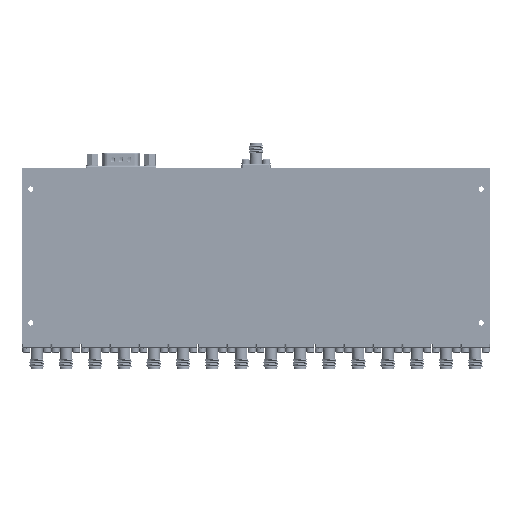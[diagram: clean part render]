
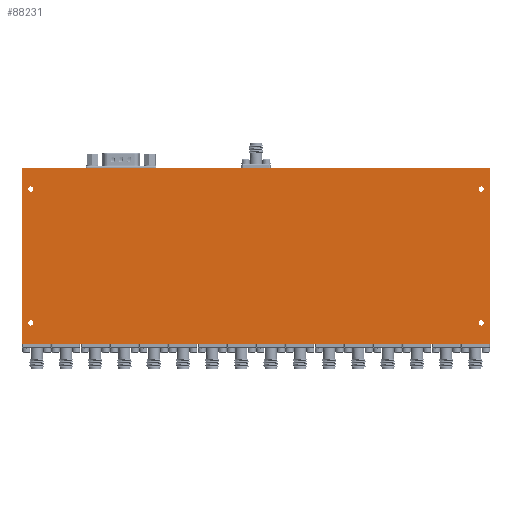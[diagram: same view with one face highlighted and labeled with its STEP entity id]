
A CAD part, front view. The second image highlights one B-rep face of the part: STEP entity #88231.
In plain terms, the highlighted planar face has unit normal (0, -1, 0).
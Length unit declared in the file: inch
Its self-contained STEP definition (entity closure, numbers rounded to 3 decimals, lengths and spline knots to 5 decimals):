
#97 = CARTESIAN_POINT ( 'NONE',  ( 0.15, -0.062, -0.355 ) ) ;
#652 = DIRECTION ( 'NONE',  ( 0., 0., -1. ) ) ;
#2155 = DIRECTION ( 'NONE',  ( 0., -1., 0. ) ) ;
#2702 = ORIENTED_EDGE ( 'NONE', *, *, #24064, .F. ) ;
#2731 = EDGE_CURVE ( 'NONE', #106468, #106468, #58957, .T. ) ;
#2812 = EDGE_CURVE ( 'NONE', #97041, #67631, #47419, .T. ) ;
#2963 = FACE_BOUND ( 'NONE', #51137, .T. ) ;
#5183 = CIRCLE ( 'NONE', #14050, 0.015 ) ;
#6191 = CARTESIAN_POINT ( 'NONE',  ( 0.15, -0.062, -2.645 ) ) ;
#9235 = DIRECTION ( 'NONE',  ( 0., 0., -1. ) ) ;
#10340 = VERTEX_POINT ( 'NONE', #61480 ) ;
#12805 = DIRECTION ( 'NONE',  ( 0., 0., -1. ) ) ;
#13965 = CIRCLE ( 'NONE', #28031, 0.015 ) ;
#14050 = AXIS2_PLACEMENT_3D ( 'NONE', #33445, #61429, #9235 ) ;
#15379 = CIRCLE ( 'NONE', #43491, 0.015 ) ;
#16441 = LINE ( 'NONE', #80391, #74959 ) ;
#18109 = ORIENTED_EDGE ( 'NONE', *, *, #54507, .T. ) ;
#19288 = DIRECTION ( 'NONE',  ( 0., 0., -1. ) ) ;
#22065 = CARTESIAN_POINT ( 'NONE',  ( 0.015, -0.062, -0.015 ) ) ;
#22713 = VERTEX_POINT ( 'NONE', #23301 ) ;
#23301 = CARTESIAN_POINT ( 'NONE',  ( 0., -0.062, -0.015 ) ) ;
#24064 = EDGE_CURVE ( 'NONE', #10340, #10340, #105508, .T. ) ;
#25466 = AXIS2_PLACEMENT_3D ( 'NONE', #65446, #32453, #48958 ) ;
#26108 = CARTESIAN_POINT ( 'NONE',  ( 7.985, -0.062, -2.985 ) ) ;
#26164 = CARTESIAN_POINT ( 'NONE',  ( 0., -0.062, -0.015 ) ) ;
#26721 = ORIENTED_EDGE ( 'NONE', *, *, #43699, .T. ) ;
#27073 = ORIENTED_EDGE ( 'NONE', *, *, #2812, .T. ) ;
#28031 = AXIS2_PLACEMENT_3D ( 'NONE', #26108, #100834, #92582 ) ;
#31997 = DIRECTION ( 'NONE',  ( 0., -1., 0. ) ) ;
#32453 = DIRECTION ( 'NONE',  ( 0., -1., 0. ) ) ;
#33445 = CARTESIAN_POINT ( 'NONE',  ( 0.015, -0.062, -2.985 ) ) ;
#34483 = CARTESIAN_POINT ( 'NONE',  ( 7.85, -0.062, -0.3995 ) ) ;
#35311 = CARTESIAN_POINT ( 'NONE',  ( 7.985, -0.062, 0. ) ) ;
#35529 = CARTESIAN_POINT ( 'NONE',  ( 0.015, -0.062, 0. ) ) ;
#36086 = VERTEX_POINT ( 'NONE', #34483 ) ;
#36514 = FACE_BOUND ( 'NONE', #88966, .T. ) ;
#38449 = VECTOR ( 'NONE', #44660, 39.37008 ) ;
#38578 = DIRECTION ( 'NONE',  ( 1., 0., 0. ) ) ;
#38581 = CARTESIAN_POINT ( 'NONE',  ( 8., -0.062, -2.985 ) ) ;
#38812 = AXIS2_PLACEMENT_3D ( 'NONE', #97, #31997, #652 ) ;
#43436 = ORIENTED_EDGE ( 'NONE', *, *, #66757, .T. ) ;
#43491 = AXIS2_PLACEMENT_3D ( 'NONE', #22065, #44806, #80354 ) ;
#43535 = DIRECTION ( 'NONE',  ( 0., 0., -1. ) ) ;
#43699 = EDGE_CURVE ( 'NONE', #47600, #96654, #94105, .T. ) ;
#44158 = EDGE_CURVE ( 'NONE', #68032, #98824, #5183, .T. ) ;
#44660 = DIRECTION ( 'NONE',  ( -1., 0., 0. ) ) ;
#44806 = DIRECTION ( 'NONE',  ( 0., -1., 0. ) ) ;
#45321 = PLANE ( 'NONE',  #25466 ) ;
#45824 = DIRECTION ( 'NONE',  ( 0., -1., 0. ) ) ;
#47419 = LINE ( 'NONE', #38581, #92336 ) ;
#47530 = ORIENTED_EDGE ( 'NONE', *, *, #94565, .T. ) ;
#47600 = VERTEX_POINT ( 'NONE', #105299 ) ;
#47792 = AXIS2_PLACEMENT_3D ( 'NONE', #77456, #2155, #95982 ) ;
#48284 = CARTESIAN_POINT ( 'NONE',  ( 0., -0.062, -2.985 ) ) ;
#48958 = DIRECTION ( 'NONE',  ( 0., 0., -1. ) ) ;
#49340 = ORIENTED_EDGE ( 'NONE', *, *, #44158, .T. ) ;
#50836 = CARTESIAN_POINT ( 'NONE',  ( 8., -0.062, -2.985 ) ) ;
#51137 = EDGE_LOOP ( 'NONE', ( #99105 ) ) ;
#54507 = EDGE_CURVE ( 'NONE', #96654, #22713, #15379, .T. ) ;
#56860 = AXIS2_PLACEMENT_3D ( 'NONE', #104492, #103945, #19288 ) ;
#57147 = AXIS2_PLACEMENT_3D ( 'NONE', #94066, #58981, #43535 ) ;
#58153 = ORIENTED_EDGE ( 'NONE', *, *, #108151, .F. ) ;
#58957 = CIRCLE ( 'NONE', #67745, 0.0445 ) ;
#58981 = DIRECTION ( 'NONE',  ( 0., -1., 0. ) ) ;
#60729 = CARTESIAN_POINT ( 'NONE',  ( 7.85, -0.062, -2.6895 ) ) ;
#61429 = DIRECTION ( 'NONE',  ( 0., -1., 0. ) ) ;
#61480 = CARTESIAN_POINT ( 'NONE',  ( 0.15, -0.062, -0.3995 ) ) ;
#65134 = CARTESIAN_POINT ( 'NONE',  ( 0.015, -0.062, -3. ) ) ;
#65265 = CARTESIAN_POINT ( 'NONE',  ( 0.15, -0.062, -2.6895 ) ) ;
#65446 = CARTESIAN_POINT ( 'NONE',  ( 7.985, -0.062, -2.985 ) ) ;
#66757 = EDGE_CURVE ( 'NONE', #22713, #68032, #100885, .T. ) ;
#67631 = VERTEX_POINT ( 'NONE', #99306 ) ;
#67745 = AXIS2_PLACEMENT_3D ( 'NONE', #6191, #45824, #12805 ) ;
#68032 = VERTEX_POINT ( 'NONE', #48284 ) ;
#68441 = EDGE_LOOP ( 'NONE', ( #2702 ) ) ;
#69031 = EDGE_CURVE ( 'NONE', #71489, #71489, #70346, .T. ) ;
#70031 = FACE_BOUND ( 'NONE', #93009, .T. ) ;
#70346 = CIRCLE ( 'NONE', #47792, 0.0445 ) ;
#71489 = VERTEX_POINT ( 'NONE', #60729 ) ;
#72119 = DIRECTION ( 'NONE',  ( 0., 0., 1. ) ) ;
#72679 = CIRCLE ( 'NONE', #56860, 0.015 ) ;
#74807 = EDGE_LOOP ( 'NONE', ( #47530, #27073, #81324, #26721, #18109, #43436, #49340, #81109 ) ) ;
#74959 = VECTOR ( 'NONE', #38578, 39.37008 ) ;
#75612 = ORIENTED_EDGE ( 'NONE', *, *, #69031, .F. ) ;
#77456 = CARTESIAN_POINT ( 'NONE',  ( 7.85, -0.062, -2.645 ) ) ;
#78065 = EDGE_CURVE ( 'NONE', #67631, #47600, #72679, .T. ) ;
#80354 = DIRECTION ( 'NONE',  ( 0., 0., -1. ) ) ;
#80391 = CARTESIAN_POINT ( 'NONE',  ( 0.015, -0.062, -3. ) ) ;
#81109 = ORIENTED_EDGE ( 'NONE', *, *, #81969, .T. ) ;
#81324 = ORIENTED_EDGE ( 'NONE', *, *, #78065, .T. ) ;
#81969 = EDGE_CURVE ( 'NONE', #98824, #89488, #16441, .T. ) ;
#82341 = VECTOR ( 'NONE', #82778, 39.37008 ) ;
#82778 = DIRECTION ( 'NONE',  ( 0., 0., -1. ) ) ;
#86928 = CIRCLE ( 'NONE', #57147, 0.0445 ) ;
#88231 = ADVANCED_FACE ( 'NONE', ( #2963, #70031, #104662, #36514, #103547 ), #45321, .T. ) ;
#88966 = EDGE_LOOP ( 'NONE', ( #75612 ) ) ;
#89488 = VERTEX_POINT ( 'NONE', #98106 ) ;
#92336 = VECTOR ( 'NONE', #72119, 39.37008 ) ;
#92582 = DIRECTION ( 'NONE',  ( 0., 0., -1. ) ) ;
#93009 = EDGE_LOOP ( 'NONE', ( #58153 ) ) ;
#94066 = CARTESIAN_POINT ( 'NONE',  ( 7.85, -0.062, -0.355 ) ) ;
#94105 = LINE ( 'NONE', #35311, #38449 ) ;
#94565 = EDGE_CURVE ( 'NONE', #89488, #97041, #13965, .T. ) ;
#95982 = DIRECTION ( 'NONE',  ( 0., 0., -1. ) ) ;
#96654 = VERTEX_POINT ( 'NONE', #35529 ) ;
#97041 = VERTEX_POINT ( 'NONE', #50836 ) ;
#98106 = CARTESIAN_POINT ( 'NONE',  ( 7.985, -0.062, -3. ) ) ;
#98824 = VERTEX_POINT ( 'NONE', #65134 ) ;
#99105 = ORIENTED_EDGE ( 'NONE', *, *, #2731, .F. ) ;
#99306 = CARTESIAN_POINT ( 'NONE',  ( 8., -0.062, -0.015 ) ) ;
#100834 = DIRECTION ( 'NONE',  ( 0., -1., 0. ) ) ;
#100885 = LINE ( 'NONE', #26164, #82341 ) ;
#103547 = FACE_BOUND ( 'NONE', #68441, .T. ) ;
#103945 = DIRECTION ( 'NONE',  ( 0., -1., 0. ) ) ;
#104492 = CARTESIAN_POINT ( 'NONE',  ( 7.985, -0.062, -0.015 ) ) ;
#104662 = FACE_OUTER_BOUND ( 'NONE', #74807, .T. ) ;
#105299 = CARTESIAN_POINT ( 'NONE',  ( 7.985, -0.062, 0. ) ) ;
#105508 = CIRCLE ( 'NONE', #38812, 0.0445 ) ;
#106468 = VERTEX_POINT ( 'NONE', #65265 ) ;
#108151 = EDGE_CURVE ( 'NONE', #36086, #36086, #86928, .T. ) ;
